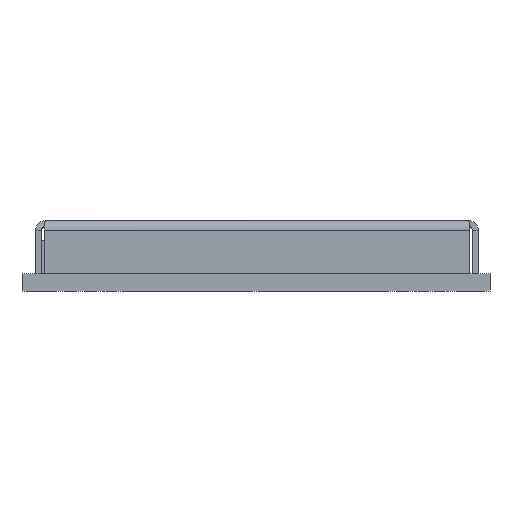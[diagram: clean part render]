
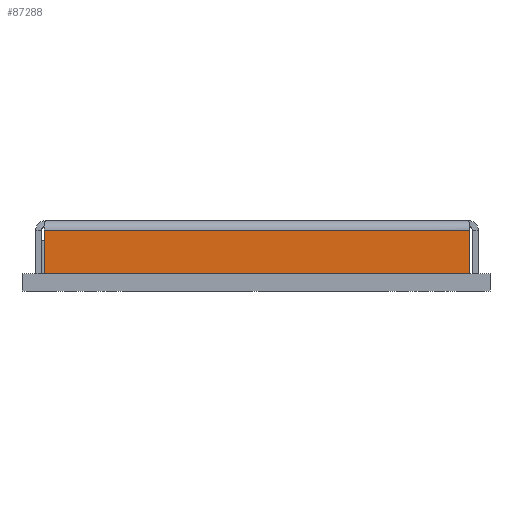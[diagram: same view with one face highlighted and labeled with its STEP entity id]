
A CAD part, front view. The second image highlights one B-rep face of the part: STEP entity #87288.
In plain terms, the highlighted planar face has unit normal (0, -1, 0).
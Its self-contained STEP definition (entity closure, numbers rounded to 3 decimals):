
#7323 = CARTESIAN_POINT ( 'NONE',  ( 11.477, 0.354, 1.36 ) ) ;
#26775 = DIRECTION ( 'NONE',  ( 0., 0., -1. ) ) ;
#33872 = EDGE_CURVE ( 'NONE', #208880, #220843, #156306, .T. ) ;
#50041 = DIRECTION ( 'NONE',  ( 0., 1., 0. ) ) ;
#52935 = VECTOR ( 'NONE', #26775, 1000. ) ;
#56607 = EDGE_CURVE ( 'NONE', #193246, #195539, #176466, .T. ) ;
#65709 = LINE ( 'NONE', #160639, #174117 ) ;
#69875 = CARTESIAN_POINT ( 'NONE',  ( 11.477, 0.354, 0. ) ) ;
#87288 = ADVANCED_FACE ( 'NONE', ( #146205 ), #221680, .F. ) ;
#89756 = EDGE_CURVE ( 'NONE', #195539, #208880, #225331, .T. ) ;
#105016 = ORIENTED_EDGE ( 'NONE', *, *, #33872, .T. ) ;
#105126 = DIRECTION ( 'NONE',  ( 1., 0., 0. ) ) ;
#114439 = CARTESIAN_POINT ( 'NONE',  ( 11.477, 0.354, 1.11 ) ) ;
#124255 = EDGE_CURVE ( 'NONE', #220843, #193246, #65709, .T. ) ;
#125290 = DIRECTION ( 'NONE',  ( 0., 0., 1. ) ) ;
#141155 = CARTESIAN_POINT ( 'NONE',  ( 0.574, 0.354, 1.11 ) ) ;
#143777 = CARTESIAN_POINT ( 'NONE',  ( 11.697, 0.354, 1.36 ) ) ;
#146205 = FACE_OUTER_BOUND ( 'NONE', #233700, .T. ) ;
#147482 = ORIENTED_EDGE ( 'NONE', *, *, #56607, .T. ) ;
#156306 = LINE ( 'NONE', #195915, #52935 ) ;
#160639 = CARTESIAN_POINT ( 'NONE',  ( 11.697, 0.354, 0. ) ) ;
#161716 = VECTOR ( 'NONE', #196249, 1000. ) ;
#165353 = ORIENTED_EDGE ( 'NONE', *, *, #124255, .T. ) ;
#172430 = AXIS2_PLACEMENT_3D ( 'NONE', #143777, #50041, #125290 ) ;
#174117 = VECTOR ( 'NONE', #105126, 1000. ) ;
#176466 = LINE ( 'NONE', #7323, #161716 ) ;
#178159 = VECTOR ( 'NONE', #243941, 1000. ) ;
#178853 = CARTESIAN_POINT ( 'NONE',  ( 0.574, 0.354, 0. ) ) ;
#193246 = VERTEX_POINT ( 'NONE', #69875 ) ;
#195539 = VERTEX_POINT ( 'NONE', #114439 ) ;
#195915 = CARTESIAN_POINT ( 'NONE',  ( 0.574, 0.354, 1.36 ) ) ;
#196249 = DIRECTION ( 'NONE',  ( 0., 0., 1. ) ) ;
#208880 = VERTEX_POINT ( 'NONE', #141155 ) ;
#220843 = VERTEX_POINT ( 'NONE', #178853 ) ;
#221680 = PLANE ( 'NONE',  #172430 ) ;
#225331 = LINE ( 'NONE', #228989, #178159 ) ;
#227722 = ORIENTED_EDGE ( 'NONE', *, *, #89756, .T. ) ;
#228989 = CARTESIAN_POINT ( 'NONE',  ( 11.697, 0.354, 1.11 ) ) ;
#233700 = EDGE_LOOP ( 'NONE', ( #147482, #227722, #105016, #165353 ) ) ;
#243941 = DIRECTION ( 'NONE',  ( -1., 0., 0. ) ) ;
